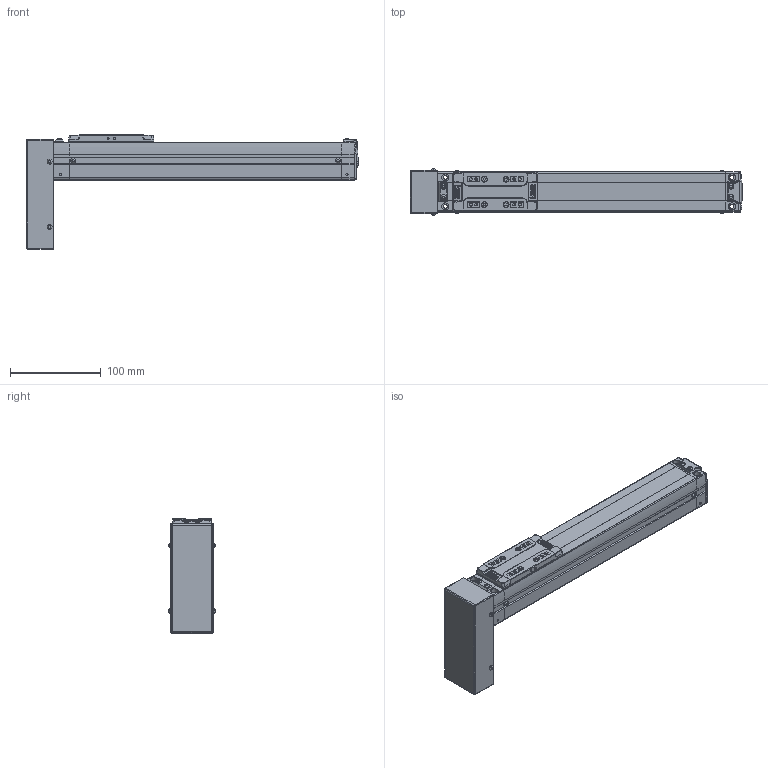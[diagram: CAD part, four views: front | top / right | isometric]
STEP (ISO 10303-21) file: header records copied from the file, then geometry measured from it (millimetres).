
FILE_DESCRIPTION(('STEP AP214'),'1');
FILE_NAME('Z:/Web/3D/SAN45/2013.ver/STP/SAN45-200PB.stp','2013-05-15T00:32:03',(' '),(' '),'Spatial InterOp 3D',' ',' ');
FILE_SCHEMA(('automotive_design'));
Length unit declared in the file: millimetre
Products named in the file (28): BODY-SAN45; REAR-SAN45; RRCV-SAN45; BHCS M3 x 6L; BHCS M3 X 6L; FRONT-SAN45; SHAFT; RN8 x 0.75; SSFX-SAN45; SLIDE-SAN45; SLCV-IM45; FHCS M3 x 6L; BTCV-SAN45
Bounding box: 366.15 x 51.13 x 126 mm (x, y, z)
Volume: 777749.5 mm3; surface area: 132063 mm2
Topology: 28 solids, 28 shells, 1696 faces, 4407 edges, 2848 vertices
Faces by surface type: plane 887, cylinder 591, cone 120, bspline 40, sphere 40, torus 12, extrusion 6
Entity records: 69941 total; most frequent: CARTESIAN_POINT 13337, DIRECTION 9164, ORIENTED_EDGE 8726, EDGE_CURVE 4363, AXIS2_PLACEMENT_3D 3224, VERTEX_POINT 2848, VECTOR 2716, LINE 2710
